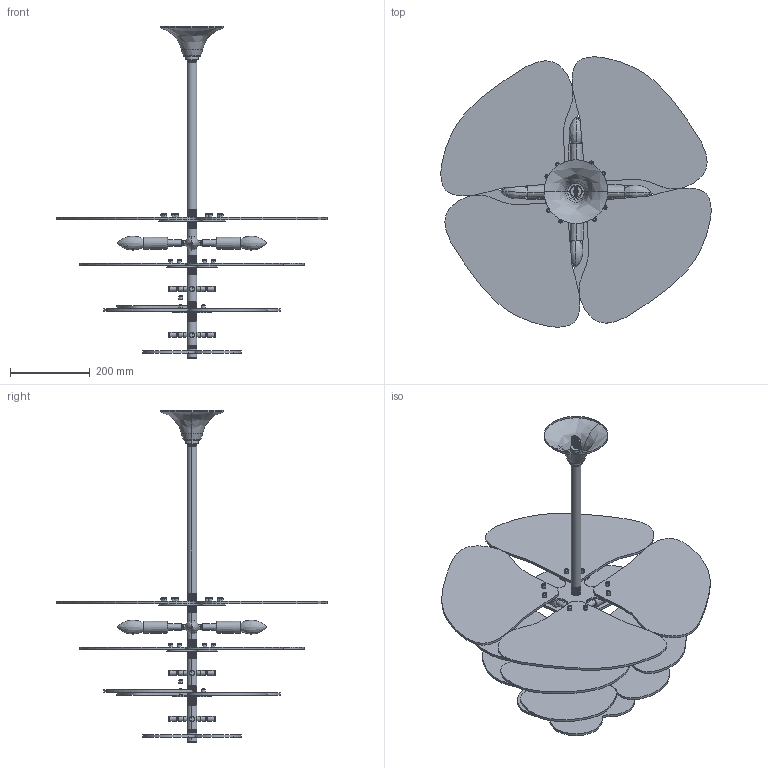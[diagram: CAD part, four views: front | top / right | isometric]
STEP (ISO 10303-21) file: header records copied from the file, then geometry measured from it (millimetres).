
FILE_DESCRIPTION(/* description */ (''),/* implementation_level */ '2;1');
FILE_NAME(/* name */ 'Petals Gold Murano Chandelier',/* time_stamp */ '2026-08-07T15:24:10+08:00',/* author */ (''),/* organization */ (''),/* preprocessor_version */ 'ST-DEVELOPER v19.2',/* originating_system */ 'Rhino 8.25',/* authorisation */ '');
FILE_SCHEMA (('CONFIG_CONTROL_DESIGN'));
Length unit declared in the file: millimetre
Products named in the file (1): Document
Bounding box: 677.68 x 677.68 x 832.35 mm (x, y, z)
Volume: 4690810.8 mm3; surface area: 1832774 mm2
Topology: 75 solids, 169 shells, 1433 faces, 3100 edges, 1810 vertices
Faces by surface type: bspline 795, cylinder 386, plane 252
Entity records: 50405 total; most frequent: CARTESIAN_POINT 23734, ORIENTED_EDGE 5770, DIRECTION 3992, EDGE_CURVE 3041, AXIS2_PLACEMENT_3D 2315, VERTEX_POINT 1809, CIRCLE 1673, TRIMMED_CURVE 1672
